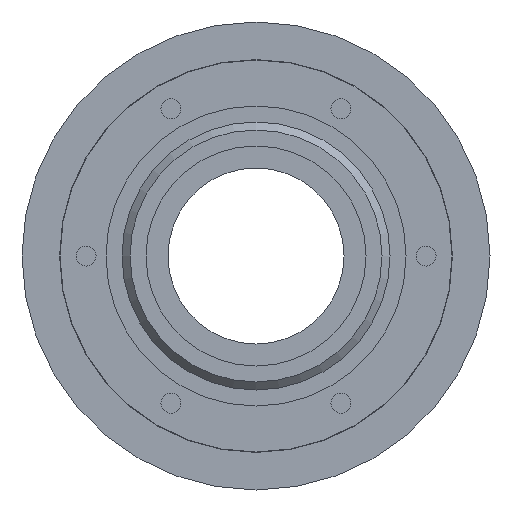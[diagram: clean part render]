
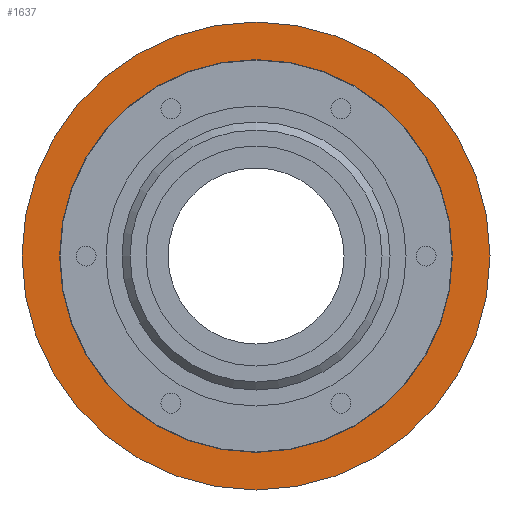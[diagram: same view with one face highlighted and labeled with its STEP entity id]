
A CAD part, left-side view. The second image highlights one B-rep face of the part: STEP entity #1637.
In plain terms, the highlighted planar face has unit normal (-1, 0, 0).
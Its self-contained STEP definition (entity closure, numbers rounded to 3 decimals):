
#30=FACE_BOUND('',#336,.T.);
#111=PLANE('',#1836);
#220=FACE_OUTER_BOUND('',#335,.T.);
#335=EDGE_LOOP('',(#1484));
#336=EDGE_LOOP('',(#1485,#1486));
#648=CIRCLE('',#1675,58.5);
#649=CIRCLE('',#1677,49.1);
#650=CIRCLE('',#1678,49.1);
#727=VERTEX_POINT('',#2364);
#728=VERTEX_POINT('',#2368);
#729=VERTEX_POINT('',#2369);
#876=EDGE_CURVE('',#727,#727,#648,.T.);
#877=EDGE_CURVE('',#728,#729,#649,.T.);
#878=EDGE_CURVE('',#729,#728,#650,.T.);
#1484=ORIENTED_EDGE('',*,*,#876,.F.);
#1485=ORIENTED_EDGE('',*,*,#877,.T.);
#1486=ORIENTED_EDGE('',*,*,#878,.T.);
#1637=ADVANCED_FACE('',(#220,#30),#111,.T.);
#1675=AXIS2_PLACEMENT_3D('',#2366,#1873,#1874);
#1677=AXIS2_PLACEMENT_3D('',#2370,#1877,#1878);
#1678=AXIS2_PLACEMENT_3D('',#2371,#1879,#1880);
#1836=AXIS2_PLACEMENT_3D('',#2796,#2328,#2329);
#1873=DIRECTION('center_axis',(1.,0.,0.));
#1874=DIRECTION('ref_axis',(0.,0.,-1.));
#1877=DIRECTION('center_axis',(1.,0.,0.));
#1878=DIRECTION('ref_axis',(0.,0.,-1.));
#1879=DIRECTION('center_axis',(1.,0.,0.));
#1880=DIRECTION('ref_axis',(0.,0.,-1.));
#2328=DIRECTION('center_axis',(-1.,0.,0.));
#2329=DIRECTION('ref_axis',(0.,0.,1.));
#2364=CARTESIAN_POINT('',(38.5,0.,58.5));
#2366=CARTESIAN_POINT('Origin',(38.5,0.,0.));
#2368=CARTESIAN_POINT('',(38.5,0.,49.1));
#2369=CARTESIAN_POINT('',(38.5,0.,-49.1));
#2370=CARTESIAN_POINT('Origin',(38.5,0.,0.));
#2371=CARTESIAN_POINT('Origin',(38.5,0.,0.));
#2796=CARTESIAN_POINT('Origin',(38.5,0.,-53.8));
